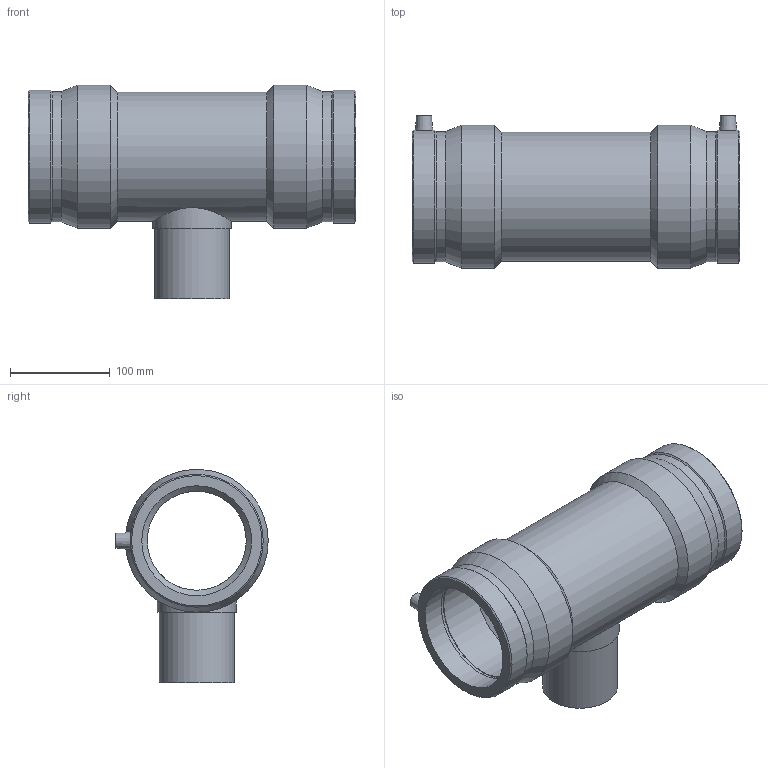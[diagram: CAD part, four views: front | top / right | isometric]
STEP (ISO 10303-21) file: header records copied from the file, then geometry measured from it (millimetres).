
FILE_DESCRIPTION(/* description */ ('PLASSON REDUCING TEE 110x75x111'),/* implementation_level */ '2;1');
FILE_NAME(/* name */ 'C:\Users\Lenora\Dropbox\99-16-3568-Processing\ElectroFusion Fittings\491404\491404110075.ipt.stp',/* time_stamp */ '2020-12-06T22:39:30+03:00',/* author */ ('KIM'),/* organization */ (''),/* preprocessor_version */ 'ST-DEVELOPER v17.2',/* originating_system */ 'Autodesk Inventor 2019',/* authorisation */ '');
FILE_SCHEMA (('AUTOMOTIVE_DESIGN { 1 0 10303 214 3 1 1 }'));
Length unit declared in the file: millimetre
Products named in the file (1): 491404110075
Bounding box: 328 x 152.5 x 213.5 mm (x, y, z)
Volume: 1892507.9 mm3; surface area: 292980.2 mm2
Topology: 1 solids, 1 shells, 45 faces, 112 edges, 79 vertices
Faces by surface type: cylinder 19, cone 14, plane 12
Full cylindrical faces by diameter (mm): 4 x2, 10 x2, 60 x1, 75 x1, 78.75 x1, 99 x1, 110 x4, 128.7 x1, 130.33 x2, 132.99 x2, 143 x2
Entity records: 1634 total; most frequent: CARTESIAN_POINT 437, DIRECTION 267, ORIENTED_EDGE 224, AXIS2_PLACEMENT_3D 117, EDGE_CURVE 112, VERTEX_POINT 79, CIRCLE 71, EDGE_LOOP 59
